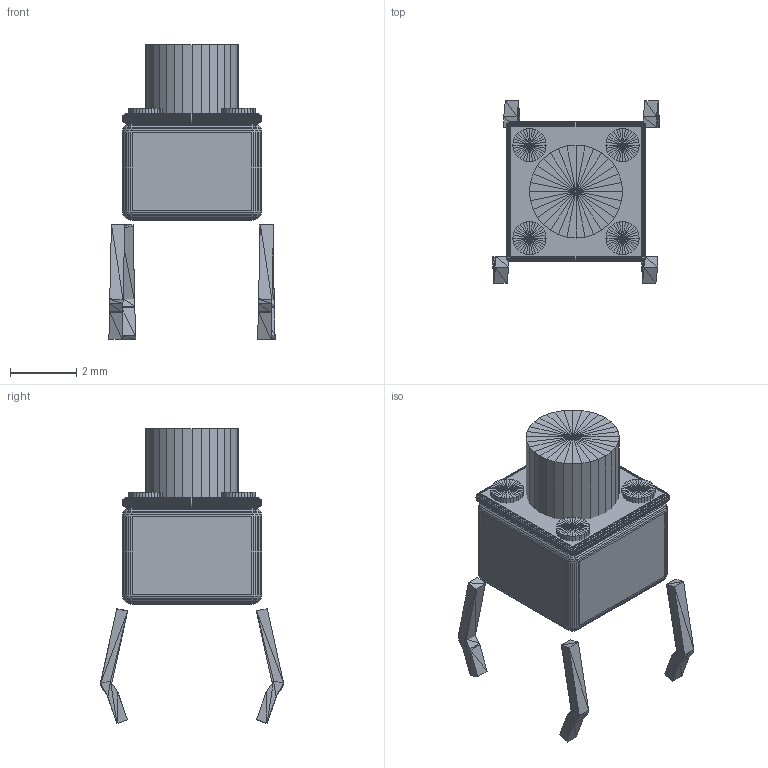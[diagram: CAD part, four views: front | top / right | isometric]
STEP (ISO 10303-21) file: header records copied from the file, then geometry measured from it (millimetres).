
FILE_DESCRIPTION(('shape.step'),'2;1');
FILE_NAME('shape.step','2026-11-04',('tscircuit'),('tscircuit'),'generator','','');
FILE_SCHEMA(('AUTOMOTIVE_DESIGN { 1 0 10303 214 1 1 1 1 }'));
Length unit declared in the file: millimetre
Products named in the file (1): shape
Bounding box: 5 x 5.51 x 8.88 mm (x, y, z)
Volume: 74.1 mm3; surface area: 185.6 mm2
Topology: 11 solids, 11 shells, 1884 faces, 3008 edges, 1146 vertices
Faces by surface type: plane 1884
Entity records: 35538 total; most frequent: DIRECTION 6778, ORIENTED_EDGE 6016, CARTESIAN_POINT 3031, VECTOR 3008, LINE 3008, EDGE_CURVE 3008, AXIS2_PLACEMENT_3D 1885, PLANE 1884
